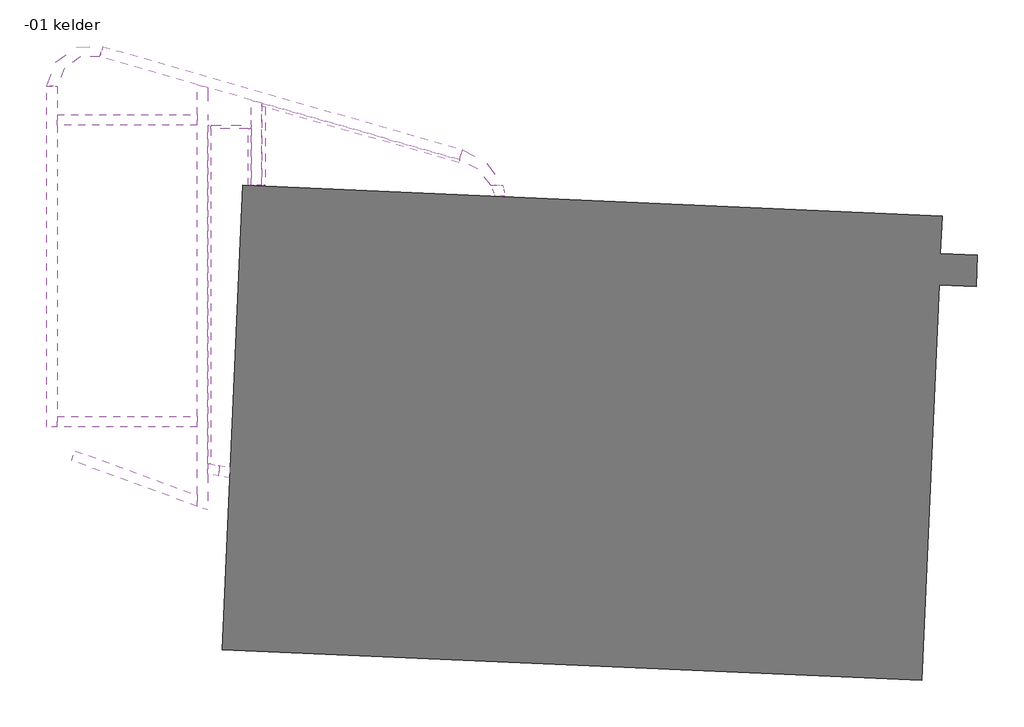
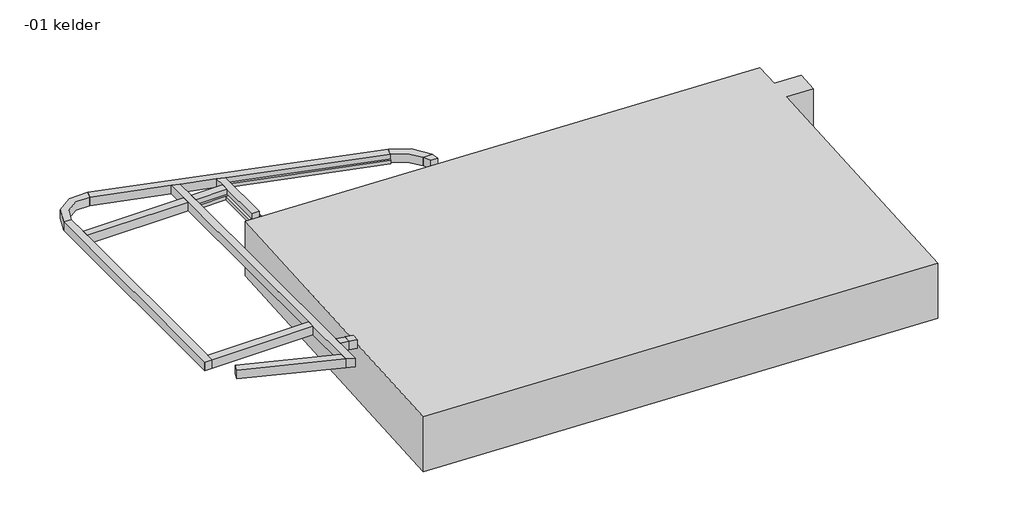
# One storey, incomplete: 17 beams, 1 proxy.
"""IFC4 building model written with IfcOpenShell, lengths in millimetres."""

from ifc_helpers import new_model, si_unit, point, frame, frame_2d, origin, place, context, project, spatial, polyline, circle_curve, trimmed, segment, composite_curve, outline, extrude, faceted_brep, transform, mapped, element, save
from ifc_brep_helpers import plane_surface, revolved_surface, advanced_brep
from components import bestaande_kelder_bestaande_kelder_df24a7f6

model = new_model("IFC4")

# Units and contexts
model_context = context("Model", 3, world=origin())
ifc_project = project(units=[si_unit("LENGTHUNIT", "METRE", prefix="MILLI")], contexts=[model_context])

# Site, building, storey
site = spatial("IfcSite", under=ifc_project)
building = spatial("IfcBuilding", under=site)
storey = spatial("IfcBuildingStorey", under=building, Name="-01 kelder", Elevation=-4000.0)

# Beams
placement = place(None, origin())
element("IfcBeam", 1, ObjectType="NLRS_16_WA Funderingsbalk_beton_ihwg_500x600", at=placement, inside=storey, context=model_context, shape_type="AdvancedBrep", body=[
    advanced_brep(
    [(10225.0, 26001.5267138, -1140.0), (10225.0, 26001.5267138, -540.0), (10225.0, 24650.0, -540.0), (10225.0, 24150.0, -540.0), (10225.0, 10250.0, -540.0), (10225.0, 9750.0, -540.0), (10225.0, 9750.0, -1140.0), (10225.0, 10250.0, -1140.0), (10225.0, 24150.0, -1140.0), (10225.0, 24650.0, -1140.0), (9725.0, 26017.7087583, -1140.0), (9725.0, 9742.366209, -1140.0), (9725.0, 9742.366209, -540.0), (9725.0, 26017.7087583, -540.0), (9730.1875454, 9750.0, -1140.0), (9730.5797235, 9742.366209, -1140.0), (9730.5797235, 9742.366209, -540.0), (9730.1875454, 9750.0, -540.0)],
    [
        (0, 1),
        (1, 2),
        (2, 3),
        (3, 4),
        (4, 5),
        (5, 6),
        (6, 7),
        (7, 8),
        (8, 9),
        (9, 0),
        (10, 11),
        (11, 12),
        (12, 13),
        (13, 10),
        (10, 0),
        (6, 14),
        (14, 15, circle_curve(frame((11544.2351277, 9839.3678444, -1140.0), z_axis=(0.0, 0.0, 1.0), x_axis=(1.0, 0.0, 0.0)), 1816.2475718)),
        (15, 11),
        (12, 16),
        (16, 17, circle_curve(frame((11544.2351277, 9839.3678444, -540.0), z_axis=(0.0, 0.0, -1.0), x_axis=(1.0, 0.0, 0.0)), 1816.2475718)),
        (17, 5),
        (1, 13),
        (15, 16),
        (14, 17),
    ],
    [
        plane_surface(frame((10225.0, 10397.0, -1140.0), z_axis=(1.0, 0.0, 0.0), x_axis=(0.0, 1.0, 0.0))),
        plane_surface(frame((9725.0, 10397.0, -1140.0), z_axis=(-1.0, 0.0, 0.0), x_axis=(0.0, -1.0, 0.0))),
        plane_surface(frame((10225.0, 9742.366209, -1140.0), z_axis=(0.0, 0.0, -1.0), x_axis=(-1.0, 0.0, 0.0))),
        plane_surface(frame((10225.0, 26009.8914072, -540.0), z_axis=(0.0, 0.0, 1.0), x_axis=(-1.0, 0.0, 0.0))),
        plane_surface(frame((10225.0, 9742.366209, -540.0), z_axis=(0.0, -1.0, 0.0), x_axis=(-1.0, 0.0, 0.0))),
        plane_surface(frame((10225.0, 26001.5267138, -1000.0), z_axis=(0.03234715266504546, 0.9994766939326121, 0.0), x_axis=(-0.9994766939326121, 0.03234715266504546, 0.0))),
        revolved_surface(polyline([(13360.4826995, 9839.3678444, -540.0), (13360.4826995, 9839.3678444, -1140.0)]), (11544.2351277, 9839.3678444, -1140.0), (0.0, 0.0, 1.0)),
        plane_surface(frame((21295.9099758, 9750.0, -1140.0), z_axis=(0.0, -1.0, 0.0), x_axis=(1.0, 0.0, 0.0))),
    ],
    [
        (0, [[1, 2, 3, 4, 5, 6, 7, 8, 9, 10]]),
        (1, [[11, 12, 13, 14]]),
        (2, [[-11, 15, -10, -9, -8, -7, 16, 17, 18]]),
        (3, [[-13, 19, 20, 21, -5, -4, -3, -2, 22]]),
        (4, [[-12, -18, 23, -19]]),
        (5, [[-1, -15, -14, -22]]),
        (6, [[24, -20, -23, -17]]),
        (7, [[-24, -16, -6, -21]]),
    ],
),
])
element("IfcBeam", 2, ObjectType="NLRS_16_WA Funderingsbalk_beton_ihwg_500x600", at=placement, inside=storey, context=model_context, shape_type="Brep", body=[
    faceted_brep([(12269.9126762, 27434.0158053, -1140.0), (16925.0, 26099.1909949, -1140.0), (17425.0, 25955.818302, -1140.0), (19509.6696057, 25358.0489118, -1140.0), (20009.6696057, 25214.6762189, -1140.0), (29442.362686, 22509.8950028, -1140.0), (29442.362686, 22509.8950028, -890.0), (29442.362686, 22509.8950028, -540.0), (20009.6696057, 25214.6762189, -540.0), (19509.6696057, 25358.0489118, -540.0), (17425.0, 25955.818302, -540.0), (16925.0, 26099.1909949, -540.0), (12269.9126762, 27434.0158053, -540.0), (12407.7313541, 27914.6466533, -1140.0), (12407.7313541, 27914.6466533, -540.0), (29580.1813639, 22990.5258508, -540.0), (29580.1813639, 22990.5258508, -1140.0)], [[[0, 1, 2, 3, 4, 5, 6, 7, 8, 9, 10, 11, 12]], [[13, 14, 15, 16]], [[5, 4, 3, 2, 1, 0, 13, 16]], [[7, 6, 5, 16, 15]], [[12, 11, 10, 9, 8, 7, 15, 14]], [[0, 12, 14, 13]]]),
])
element("IfcBeam", 3, ObjectType="NLRS_16_WA Funderingsbalk_beton_ihwg_500x600", at=placement, inside=storey, context=model_context, shape_type="SweptSolid", body=[
    extrude(outline(polyline([(16925.0, 5948.119298), (10923.0418728, 8132.6534036), (11094.0519445, 8602.499714), (16925.0, 6480.2081842), (16925.0, 5948.119298)])), frame((0.0, 0.0, -1140.0), z_axis=(0.0, 0.0, 1.0), x_axis=(1.0, 0.0, 0.0)), (0.0, 0.0, 1.0), 600.0),
])
element("IfcBeam", 4, ObjectType="NLRS_16_WA Funderingsbalk_beton_ihwg_500x600", at=placement, inside=storey, context=model_context, shape_type="SweptSolid", body=[
    extrude(outline(composite_curve([segment(polyline([(12407.7313541, 27914.6466533), (12269.9126762, 27434.0158054)]), True, "CONTINUOUS"), segment(trimmed(circle_curve(frame_2d((11827.2162762, 25890.1499858)), 1606.0827411), [point((12269.9126762, 27434.0158054))], [point((10225.0, 26001.5267138))], True, "CARTESIAN"), True, "CONTINUOUS"), segment(polyline([(10225.0, 26001.5267138), (9725.0, 26017.7087583)]), True, "CONTINUOUS"), segment(trimmed(circle_curve(frame_2d((11827.2162762, 25890.1499858)), 2106.0827411), [point((9725.0, 26017.7087583))], [point((12407.7313541, 27914.6466533))], False, "CARTESIAN"), True, "CONTINUOUS")], self_intersect=False)), frame((0.0, 0.0, -1140.0), z_axis=(0.0, 0.0, 1.0), x_axis=(1.0, 0.0, 0.0)), (0.0, 0.0, 1.0), 600.0),
])
element("IfcBeam", 5, ObjectType="NLRS_16_WA Funderingsbalk_beton_ihwg_500x600", at=placement, inside=storey, context=model_context, shape_type="SweptSolid", body=[
    extrude(outline(composite_curve([segment(polyline([(31504.0500178, 21270.6117169), (30940.6526578, 21295.2401857)]), True, "CONTINUOUS"), segment(trimmed(circle_curve(frame_2d((28762.9166039, 20140.3849224)), 2465.0), [point((30940.6526578, 21295.2401857))], [point((29442.362686, 22509.8950028))], True, "CARTESIAN"), True, "CONTINUOUS"), segment(polyline([(29442.362686, 22509.8950028), (29580.1813639, 22990.5258508)]), True, "CONTINUOUS"), segment(trimmed(circle_curve(frame_2d((28762.9166039, 20140.3849224)), 2965.0), [point((29580.1813639, 22990.5258508))], [point((31504.0500178, 21270.6117169))], False, "CARTESIAN"), True, "CONTINUOUS")], self_intersect=False)), frame((0.0, 0.0, -1140.0), z_axis=(0.0, 0.0, 1.0), x_axis=(1.0, 0.0, 0.0)), (0.0, 0.0, 1.0), 600.0),
])
element("IfcBeam", 6, ObjectType="NLRS_16_WA Funderingsbalk_beton_ihwg_500x600", at=placement, inside=storey, context=model_context, shape_type="Brep", body=[
    faceted_brep([(17425.0, 5766.1341809, -1140.0), (17425.0, 7485.2434083, -1140.0), (17425.0, 7992.9349214, -1140.0), (17425.0, 24150.0, -1140.0), (17425.0, 24650.0, -1140.0), (17425.0, 25955.818302, -1140.0), (17425.0, 25955.818302, -540.0), (17425.0, 24650.0, -540.0), (17425.0, 24150.0, -540.0), (17425.0, 7992.9349214, -540.0), (17425.0, 7485.2434083, -540.0), (17425.0, 5766.1341809, -540.0), (16925.0, 5948.119298, -1140.0), (16925.0, 5948.119298, -540.0), (16925.0, 6480.2081842, -540.0), (16925.0, 9750.0, -540.0), (16925.0, 10250.0, -540.0), (16925.0, 24150.0, -540.0), (16925.0, 24650.0, -540.0), (16925.0, 26099.1909949, -540.0), (16925.0, 26099.1909949, -1140.0), (16925.0, 24650.0, -1140.0), (16925.0, 24150.0, -1140.0), (16925.0, 10250.0, -1140.0), (16925.0, 9750.0, -1140.0), (16925.0, 6480.2081842, -1140.0)], [[[0, 1, 2, 3, 4, 5, 6, 7, 8, 9, 10, 11]], [[12, 13, 14, 15, 16, 17, 18, 19, 20, 21, 22, 23, 24, 25]], [[5, 4, 3, 2, 1, 0, 12, 25, 24, 23, 22, 21, 20]], [[11, 10, 9, 8, 7, 6, 19, 18, 17, 16, 15, 14, 13]], [[6, 5, 20, 19]], [[0, 11, 13, 12]]]),
])
element("IfcBeam", 7, ObjectType="NLRS_16_WA Funderingsbalk_beton_ihwg_500x600", at=placement, inside=storey, context=model_context, shape_type="Brep", body=[
    faceted_brep([(16925.0, 10250.0, -1140.0), (10225.0, 10250.0, -1140.0), (10225.0, 10250.0, -540.0), (16925.0, 10250.0, -540.0), (16925.0, 9750.0, -1140.0), (16925.0, 9750.0, -540.0), (10231.0249165, 9750.0, -540.0), (10225.0, 9750.0, -540.0), (10225.0, 9750.0, -1140.0), (10231.0249165, 9750.0, -1140.0)], [[[0, 1, 2, 3]], [[4, 5, 6, 7, 8, 9]], [[1, 0, 4, 9, 8]], [[3, 2, 7, 6, 5]], [[0, 3, 5, 4]], [[2, 1, 8, 7]]]),
])
element("IfcBeam", 8, ObjectType="NLRS_16_WA Funderingsbalk_beton_ihwg_500x600", at=placement, inside=storey, context=model_context, shape_type="Brep", body=[
    faceted_brep([(10225.0, 24650.0, -1140.0), (10225.0, 24650.0, -540.0), (16925.0, 24650.0, -540.0), (16925.0, 24650.0, -1140.0), (10225.0, 24150.0, -540.0), (10225.0, 24150.0, -1140.0), (16925.0, 24150.0, -1140.0), (16925.0, 24150.0, -540.0)], [[[0, 1, 2, 3]], [[4, 5, 6, 7]], [[5, 0, 3, 6]], [[1, 4, 7, 2]], [[1, 0, 5, 4]], [[3, 2, 7, 6]]]),
    faceted_brep([(19509.6696057, 24650.0, -540.0), (19509.6696057, 24650.0, -1140.0), (17425.0, 24650.0, -1140.0), (17425.0, 24650.0, -540.0), (19509.6696057, 24150.0, -1140.0), (19509.6696057, 24150.0, -540.0), (17425.0, 24150.0, -540.0), (17425.0, 24150.0, -890.0), (17425.0, 24150.0, -1140.0), (17575.0, 24150.0, -1140.0)], [[[0, 1, 2, 3]], [[4, 5, 6, 7, 8, 9]], [[1, 4, 9, 8, 2]], [[5, 0, 3, 6]], [[3, 2, 8, 7, 6]], [[1, 0, 5, 4]]]),
])
element("IfcBeam", 9, ObjectType="NLRS_16_WA Funderingsbalk_beton_ihwg_500x600", at=placement, inside=storey, context=model_context, shape_type="Brep", body=[
    faceted_brep([(20009.6696057, 21297.7376054, -1140.0), (20009.6696057, 25214.6762189, -1140.0), (20009.6696057, 25214.6762189, -540.0), (20009.6696057, 21297.7376054, -540.0), (19509.6696057, 21297.7376054, -1140.0), (19509.6696057, 21297.7376054, -540.0), (19509.6696057, 24150.0, -540.0), (19509.6696057, 24650.0, -540.0), (19509.6696057, 25358.0489118, -540.0), (19509.6696057, 25358.0489118, -1140.0), (19509.6696057, 24650.0, -1140.0), (19509.6696057, 24150.0, -1140.0), (19509.6696057, 24000.0, -1140.0)], [[[0, 1, 2, 3]], [[4, 5, 6, 7, 8, 9, 10, 11, 12]], [[1, 0, 4, 12, 11, 10, 9]], [[3, 2, 8, 7, 6, 5]], [[0, 3, 5, 4]], [[2, 1, 9, 8]]]),
])
element("IfcBeam", 10, ObjectType="NLRS_16_WA Funderingsnok_beton_ihwg_250x150", at=placement, inside=storey, context=model_context, shape_type="Brep", body=[
    faceted_brep([(17575.0, 7966.5235503, -1140.0), (17575.0, 24000.0, -1140.0), (17575.0, 24150.0, -1140.0), (17575.0, 24150.0, -890.0), (17575.0, 24000.0, -890.0), (17575.0, 7966.5235503, -890.0), (17425.0, 7992.9349214, -1140.0), (17425.0, 7992.9349214, -890.0), (17425.0, 24150.0, -890.0), (17425.0, 24150.0, -1140.0)], [[[0, 1, 2, 3, 4, 5]], [[6, 7, 8, 9]], [[2, 1, 0, 6, 9]], [[5, 4, 3, 8, 7]], [[3, 2, 9, 8]], [[0, 5, 7, 6]]]),
])
element("IfcBeam", 11, ObjectType="NLRS_16_WA Funderingsnok_beton_ihwg_250x150", at=placement, inside=storey, context=model_context, shape_type="Brep", body=[
    faceted_brep([(17575.0, 24000.0, -1140.0), (19359.6696057, 24000.0, -1140.0), (19509.6696057, 24000.0, -1140.0), (19509.6696057, 24000.0, -890.0), (19359.6696057, 24000.0, -890.0), (17575.0, 24000.0, -890.0), (17575.0, 24150.0, -1140.0), (17575.0, 24150.0, -890.0), (19509.6696057, 24150.0, -890.0), (19509.6696057, 24150.0, -1140.0)], [[[0, 1, 2, 3, 4, 5]], [[6, 7, 8, 9]], [[2, 1, 0, 6, 9]], [[5, 4, 3, 8, 7]], [[0, 5, 7, 6]], [[3, 2, 9, 8]]]),
])
element("IfcBeam", 12, ObjectType="NLRS_16_WA Funderingsnok_beton_ihwg_250x150", at=placement, inside=storey, context=model_context, shape_type="Brep", body=[
    faceted_brep([(20009.6696057, 25058.6313035, -1140.0), (20159.6696057, 25015.6194957, -1140.0), (29401.0170826, 22365.7057485, -1140.0), (29401.0170826, 22365.7057485, -890.0), (20159.6696057, 25015.6194957, -890.0), (20009.6696057, 25058.6313035, -890.0), (29442.362686, 22509.8950028, -1140.0), (20009.6696057, 25214.6762189, -1140.0), (20009.6696057, 25214.6762189, -890.0), (29442.362686, 22509.8950028, -890.0)], [[[0, 1, 2, 3, 4, 5]], [[6, 7, 8, 9]], [[2, 1, 0, 7, 6]], [[3, 2, 6, 9]], [[5, 4, 3, 9, 8]], [[0, 5, 8, 7]]]),
])
element("IfcBeam", 13, ObjectType="NLRS_16_WA Funderingsnok_beton_ihwg_250x150", at=placement, inside=storey, context=model_context, shape_type="SweptSolid", body=[
    extrude(outline(polyline([(20159.6696057, 25015.6194957), (20159.6696057, 21297.7376054), (20009.6696057, 21297.7376054), (20009.6696057, 25058.6313035), (20159.6696057, 25015.6194957)])), frame((0.0, 0.0, -1140.0), z_axis=(0.0, 0.0, 1.0), x_axis=(1.0, 0.0, 0.0)), (0.0, 0.0, 1.0), 250.0),
])
element("IfcBeam", 14, ObjectType="NLRS_16_WA Funderingsbalk_beton_ihwg_500x600", at=placement, inside=storey, context=model_context, shape_type="Brep", body=[
    faceted_brep([(17425.0, 7485.2434083, -1140.0), (17954.2331884, 7392.0582473, -1140.0), (17954.2331884, 7392.0582473, -540.0), (17425.0, 7485.2434083, -540.0), (17425.0, 7992.9349214, -1140.0), (17425.0, 7992.9349214, -890.0), (17425.0, 7992.9349214, -540.0), (17927.6991671, 7904.4217596, -540.0), (17976.2570027, 7895.8718996, -540.0), (17976.2570027, 7895.8718996, -1140.0), (17927.6991671, 7904.4217596, -1140.0), (17575.0, 7966.5235503, -1140.0)], [[[0, 1, 2, 3]], [[4, 5, 6, 7, 8, 9, 10, 11]], [[1, 0, 4, 11, 10, 9]], [[3, 2, 8, 7, 6]], [[3, 6, 5, 4, 0]], [[2, 1, 9, 8]]]),
])
element("IfcBeam", 15, ObjectType="NLRS_16_WA Funderingsbalk_beton_ihwg_500x600", at=placement, inside=storey, context=model_context, shape_type="AdvancedBrep", body=[
    advanced_brep(
    [(31141.8763821, 20785.9663453, -540.0), (31141.8763821, 20785.9663453, -890.0), (31141.8763821, 20785.9663453, -1140.0), (31608.3114834, 20765.5765047, -1140.0), (31608.3114834, 20765.5765047, -540.0), (31504.0500178, 21270.6117169, -1140.0), (30940.6526578, 21295.2401857, -1140.0), (30940.6526578, 21295.2401857, -540.0), (31504.0500178, 21270.6117169, -540.0), (31561.3192086, 21097.0933609, -1140.0), (31561.3192086, 21097.0933609, -540.0)],
    [
        (0, 1),
        (1, 2),
        (2, 3),
        (3, 4),
        (4, 0),
        (5, 6),
        (6, 7),
        (7, 8),
        (8, 5),
        (5, 9),
        (9, 3),
        (2, 6, circle_curve(frame((28762.9166039, 20140.3849224, -1140.0), z_axis=(0.0, 0.0, 1.0), x_axis=(1.0, 0.0, 0.0)), 2465.0)),
        (7, 0, circle_curve(frame((28762.9166039, 20140.3849224, -540.0), z_axis=(0.0, 0.0, -1.0), x_axis=(1.0, 0.0, 0.0)), 2465.0)),
        (4, 10),
        (10, 8),
        (9, 10),
    ],
    [
        plane_surface(frame((20534.5315978, 21249.6580106, -1140.0), z_axis=(-0.043672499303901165, -0.9990459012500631, 0.0), x_axis=(0.9990459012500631, -0.043672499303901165, 0.0))),
        plane_surface(frame((20556.3678474, 21749.1809612, -1140.0), z_axis=(0.043672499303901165, 0.9990459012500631, 0.0), x_axis=(-0.9990459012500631, 0.043672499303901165, 0.0))),
        plane_surface(frame((30964.8113528, 20793.7066026, -1140.0), z_axis=(0.0, 0.0, -1.0), x_axis=(0.0436724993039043, 0.999045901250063, 0.0))),
        plane_surface(frame((31317.7921902, 20778.2763252, -540.0), z_axis=(0.0, 0.0, 1.0), x_axis=(0.0436724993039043, 0.999045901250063, 0.0))),
        revolved_surface(polyline([(31227.9166039, 20140.3849224, -540.0), (31227.9166039, 20140.3849224, -1140.0)]), (28762.9166039, 20140.3849224, -1140.0), (0.0, 0.0, 1.0)),
        plane_surface(frame((31617.1697104, 20703.0842849, -440.0), z_axis=(0.9901024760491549, 0.14034631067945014, 0.0), x_axis=(-0.14034631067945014, 0.9901024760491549, 0.0))),
        plane_surface(frame((31603.7320007, 20968.588001, -440.0), z_axis=(0.9496154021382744, 0.3134175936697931, 0.0), x_axis=(-0.3134175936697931, 0.9496154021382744, 0.0))),
    ],
    [
        (0, [[1, 2, 3, 4, 5]]),
        (1, [[6, 7, 8, 9]]),
        (2, [[-6, 10, 11, -3, 12]]),
        (3, [[-8, 13, -5, 14, 15]]),
        (4, [[-2, -1, -13, -7, -12]]),
        (5, [[-4, -11, 16, -14]]),
        (6, [[-10, -9, -15, -16]]),
    ],
),
])
element("IfcBeam", 16, ObjectType="NLRS_16_WA Funderingsbalk_beton_ihwg_500x600", at=placement, inside=storey, context=model_context, shape_type="SweptSolid", body=[
    extrude(outline(polyline([(18450.8821918, 7304.477989), (17954.232857, 7392.0506666), (17976.2564736, 7895.8597964), (18472.9058084, 7808.2871187), (18450.8821918, 7304.477989)])), frame((0.0, 0.0, -1140.0), z_axis=(0.0, 0.0, 1.0), x_axis=(1.0, 0.0, 0.0)), (0.0, 0.0, 1.0), 600.0),
])
element("IfcBeam", 17, ObjectType="NLRS_16_WA Funderingsnok_beton_ihwg_250x150", at=placement, inside=storey, context=model_context, shape_type="SweptSolid", body=[
    extrude(outline(polyline([(19509.6696057, 24000.0), (19509.6696057, 21297.7376054), (19359.6696057, 21297.7376054), (19359.6696057, 24000.0), (19509.6696057, 24000.0)])), frame((0.0, 0.0, -1140.0), z_axis=(0.0, 0.0, 1.0), x_axis=(1.0, 0.0, 0.0)), (0.0, 0.0, 1.0), 250.0),
])

# Proxy
bestaande_kelder_bestaande_kelder_shape = bestaande_kelder_bestaande_kelder_df24a7f6(model_context)
element("IfcBuildingElementProxy", 18, Name="Bestaande kelder : Bestaande kelder", ObjectType="Bestaande kelder : Bestaande kelder", at=placement, inside=storey, context=model_context, shape_type="MappedRepresentation", body=[
    mapped(bestaande_kelder_bestaande_kelder_shape, transform((0.0, 0.0, 0.0), x_axis=(1.0, 0.0, 0.0), y_axis=(0.0, 1.0, 0.0), z_axis=(0.0, 0.0, 1.0))),
])

save(model, "model.ifc")
